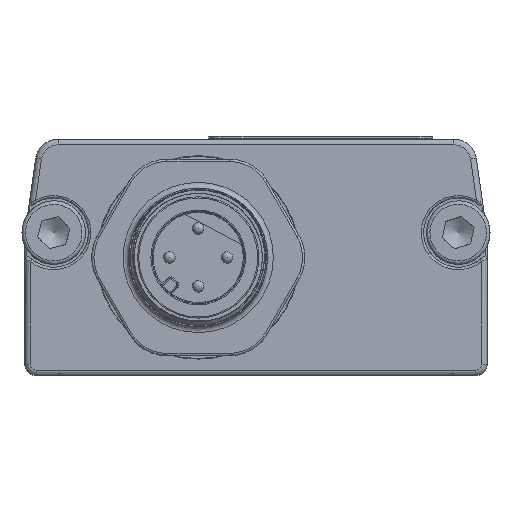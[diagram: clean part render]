
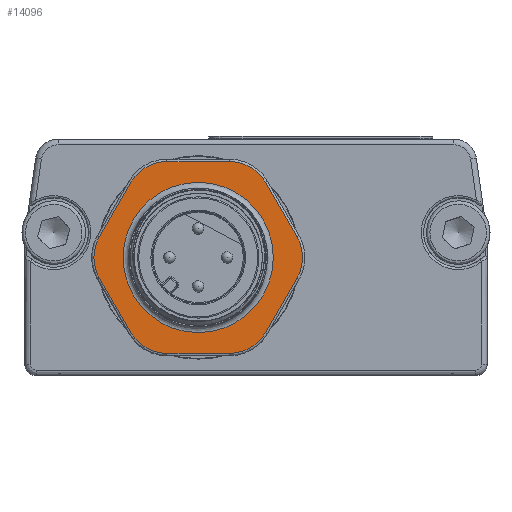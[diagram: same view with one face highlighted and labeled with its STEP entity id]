
A CAD part, front view. The second image highlights one B-rep face of the part: STEP entity #14096.
In plain terms, the highlighted planar face has unit normal (0, -1, 0).
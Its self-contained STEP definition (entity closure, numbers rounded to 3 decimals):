
#197=FACE_BOUND('',#2422,.T.);
#648=CIRCLE('',#15063,3.6);
#653=CIRCLE('',#15070,3.6);
#656=CIRCLE('',#15075,3.6);
#659=CIRCLE('',#15080,3.6);
#663=CIRCLE('',#15086,3.6);
#667=CIRCLE('',#15092,3.6);
#668=CIRCLE('',#15100,6.5);
#669=CIRCLE('',#15101,6.5);
#1110=PLANE('',#15099);
#1642=FACE_OUTER_BOUND('',#2421,.T.);
#2421=EDGE_LOOP('',(#10597,#10598,#10599,#10600,#10601,#10602,#10603,#10604,
#10605,#10606,#10607,#10608));
#2422=EDGE_LOOP('',(#10609,#10610));
#3657=LINE('',#25969,#4721);
#3658=LINE('',#25977,#4722);
#3659=LINE('',#25985,#4723);
#3660=LINE('',#25993,#4724);
#3662=LINE('',#26005,#4726);
#3663=LINE('',#26013,#4727);
#4721=VECTOR('',#17378,10.);
#4722=VECTOR('',#17389,10.);
#4723=VECTOR('',#17400,10.);
#4724=VECTOR('',#17411,10.);
#4726=VECTOR('',#17425,10.);
#4727=VECTOR('',#17436,10.);
#6057=VERTEX_POINT('',#25958);
#6058=VERTEX_POINT('',#25960);
#6060=VERTEX_POINT('',#25966);
#6061=VERTEX_POINT('',#25971);
#6062=VERTEX_POINT('',#25975);
#6063=VERTEX_POINT('',#25979);
#6064=VERTEX_POINT('',#25983);
#6065=VERTEX_POINT('',#25987);
#6066=VERTEX_POINT('',#25991);
#6067=VERTEX_POINT('',#25995);
#6069=VERTEX_POINT('',#26001);
#6071=VERTEX_POINT('',#26007);
#6073=VERTEX_POINT('',#26026);
#6074=VERTEX_POINT('',#26027);
#7687=EDGE_CURVE('',#6057,#6058,#648,.T.);
#7692=EDGE_CURVE('',#6058,#6060,#3657,.T.);
#7694=EDGE_CURVE('',#6060,#6061,#653,.T.);
#7696=EDGE_CURVE('',#6061,#6062,#3658,.T.);
#7698=EDGE_CURVE('',#6062,#6063,#656,.T.);
#7700=EDGE_CURVE('',#6063,#6064,#3659,.T.);
#7702=EDGE_CURVE('',#6064,#6065,#659,.T.);
#7704=EDGE_CURVE('',#6065,#6066,#3660,.T.);
#7707=EDGE_CURVE('',#6066,#6067,#663,.T.);
#7710=EDGE_CURVE('',#6067,#6069,#3662,.T.);
#7713=EDGE_CURVE('',#6069,#6071,#667,.T.);
#7714=EDGE_CURVE('',#6071,#6057,#3663,.T.);
#7721=EDGE_CURVE('',#6073,#6074,#668,.T.);
#7722=EDGE_CURVE('',#6074,#6073,#669,.T.);
#10597=ORIENTED_EDGE('',*,*,#7687,.F.);
#10598=ORIENTED_EDGE('',*,*,#7714,.F.);
#10599=ORIENTED_EDGE('',*,*,#7713,.F.);
#10600=ORIENTED_EDGE('',*,*,#7710,.F.);
#10601=ORIENTED_EDGE('',*,*,#7707,.F.);
#10602=ORIENTED_EDGE('',*,*,#7704,.F.);
#10603=ORIENTED_EDGE('',*,*,#7702,.F.);
#10604=ORIENTED_EDGE('',*,*,#7700,.F.);
#10605=ORIENTED_EDGE('',*,*,#7698,.F.);
#10606=ORIENTED_EDGE('',*,*,#7696,.F.);
#10607=ORIENTED_EDGE('',*,*,#7694,.F.);
#10608=ORIENTED_EDGE('',*,*,#7692,.F.);
#10609=ORIENTED_EDGE('',*,*,#7721,.F.);
#10610=ORIENTED_EDGE('',*,*,#7722,.F.);
#14096=ADVANCED_FACE('',(#1642,#197),#1110,.T.);
#15063=AXIS2_PLACEMENT_3D('',#25961,#17367,#17368);
#15070=AXIS2_PLACEMENT_3D('',#25973,#17383,#17384);
#15075=AXIS2_PLACEMENT_3D('',#25981,#17394,#17395);
#15080=AXIS2_PLACEMENT_3D('',#25989,#17405,#17406);
#15086=AXIS2_PLACEMENT_3D('',#25999,#17418,#17419);
#15092=AXIS2_PLACEMENT_3D('',#26011,#17432,#17433);
#15099=AXIS2_PLACEMENT_3D('',#26025,#17453,#17454);
#15100=AXIS2_PLACEMENT_3D('',#26028,#17455,#17456);
#15101=AXIS2_PLACEMENT_3D('',#26029,#17457,#17458);
#17367=DIRECTION('center_axis',(0.,1.,0.));
#17368=DIRECTION('ref_axis',(-0.5,0.,-0.866));
#17378=DIRECTION('',(-0.5,0.,0.866));
#17383=DIRECTION('center_axis',(0.,1.,0.));
#17384=DIRECTION('ref_axis',(-1.,0.,0.));
#17389=DIRECTION('',(0.5,0.,0.866));
#17394=DIRECTION('center_axis',(0.,1.,0.));
#17395=DIRECTION('ref_axis',(-0.5,0.,0.866));
#17400=DIRECTION('',(1.,0.,0.));
#17405=DIRECTION('center_axis',(0.,1.,0.));
#17406=DIRECTION('ref_axis',(0.5,0.,0.866));
#17411=DIRECTION('',(0.5,0.,-0.866));
#17418=DIRECTION('center_axis',(0.,1.,0.));
#17419=DIRECTION('ref_axis',(1.,0.,0.));
#17425=DIRECTION('',(-0.5,0.,-0.866));
#17432=DIRECTION('center_axis',(0.,1.,0.));
#17433=DIRECTION('ref_axis',(0.5,0.,-0.866));
#17436=DIRECTION('',(-1.,0.,0.));
#17453=DIRECTION('center_axis',(0.,-1.,0.));
#17454=DIRECTION('ref_axis',(-1.,0.,0.));
#17455=DIRECTION('center_axis',(0.,-1.,0.));
#17456=DIRECTION('ref_axis',(0.,0.,
1.));
#17457=DIRECTION('center_axis',(0.,-1.,0.));
#17458=DIRECTION('ref_axis',(0.,0.,
1.));
#25958=CARTESIAN_POINT('',(-46.428,-12.9,10.329));
#25960=CARTESIAN_POINT('',(-49.546,-12.9,12.129));
#25961=CARTESIAN_POINT('Origin',(-46.428,-12.9,13.929));
#25966=CARTESIAN_POINT('',(-52.26,-12.9,16.829));
#25969=CARTESIAN_POINT('',(-52.13,-12.9,16.604));
#25971=CARTESIAN_POINT('',(-52.26,-12.9,20.429));
#25973=CARTESIAN_POINT('Origin',(-49.142,-12.9,18.629));
#25975=CARTESIAN_POINT('',(-49.546,-12.9,25.129));
#25977=CARTESIAN_POINT('',(-49.676,-12.9,24.904));
#25979=CARTESIAN_POINT('',(-46.428,-12.9,26.929));
#25981=CARTESIAN_POINT('Origin',(-46.428,-12.9,23.329));
#25983=CARTESIAN_POINT('',(-41.001,-12.9,26.929));
#25985=CARTESIAN_POINT('',(-41.261,-12.9,26.929));
#25987=CARTESIAN_POINT('',(-37.884,-12.9,25.129));
#25989=CARTESIAN_POINT('Origin',(-41.001,-12.9,23.329));
#25991=CARTESIAN_POINT('',(-35.17,-12.9,20.429));
#25993=CARTESIAN_POINT('',(-35.3,-12.9,20.654));
#25995=CARTESIAN_POINT('',(-35.17,-12.9,16.829));
#25999=CARTESIAN_POINT('Origin',(-38.288,-12.9,18.629));
#26001=CARTESIAN_POINT('',(-37.884,-12.9,12.129));
#26005=CARTESIAN_POINT('',(-37.754,-12.9,12.354));
#26007=CARTESIAN_POINT('',(-41.001,-12.9,10.329));
#26011=CARTESIAN_POINT('Origin',(-41.001,-12.9,13.929));
#26013=CARTESIAN_POINT('',(-46.169,-12.9,10.329));
#26025=CARTESIAN_POINT('Origin',(-43.715,-12.9,18.629));
#26026=CARTESIAN_POINT('',(-43.715,-12.9,12.129));
#26027=CARTESIAN_POINT('',(-50.215,-12.9,18.629));
#26028=CARTESIAN_POINT('Origin',(-43.715,-12.9,18.629));
#26029=CARTESIAN_POINT('Origin',(-43.715,-12.9,18.629));
